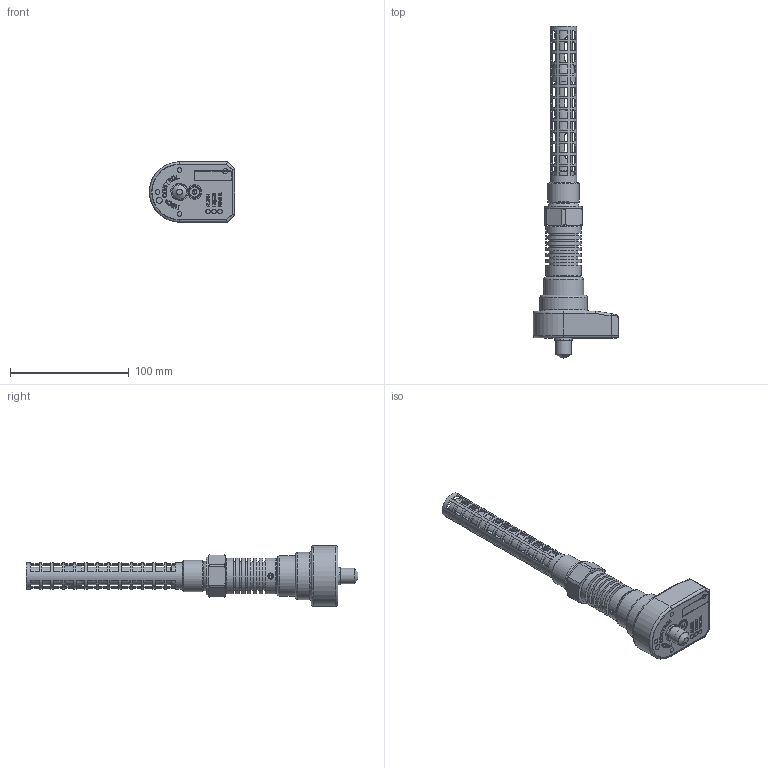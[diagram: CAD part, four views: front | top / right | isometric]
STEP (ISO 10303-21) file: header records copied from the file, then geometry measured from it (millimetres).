
FILE_DESCRIPTION((''),'2;1');
FILE_NAME('R:\Mekanisk design\HBCP-X\5. STEP-filer\HBCP-X-KOM-SAM-150-R3.stp','2013-04-24T15:58:54',('svj'),(''),'Autodesk Inventor 2013','Autodesk Inventor 2013','');
FILE_SCHEMA(('AUTOMOTIVE_DESIGN { 1 0 10303 214 1 1 1 1 }'));
Length unit declared in the file: millimetre
Products named in the file (1): HBCP-X-KOM-SAM-150-R4
Bounding box: 72 x 280.1 x 51 mm (x, y, z)
Volume: 116041.1 mm3; surface area: 82523.9 mm2
Topology: 1 solids, 27 shells, 1805 faces, 4822 edges, 3134 vertices
Faces by surface type: plane 1146, cylinder 295, bspline 214, cone 74, torus 59, sphere 17
Full cylindrical faces by diameter (mm): 0.5 x4, 1 x15, 1.003 x1, 1.3 x1, 1.8 x1, 2 x2, 2.459 x2, 2.729 x1, 2.83 x1, 3 x3, 3.2 x1, 3.5 x2, 3.6 x3, 3.8 x1, 4 x18, 4.134 x3, 4.2 x1, 4.7 x1, 5 x5, 5.3 x1, 6 x1, 6.1 x1, 6.2 x1, 6.3 x1, 7 x1, 8.3 x1, 8.5 x2, 9.4 x1, 9.7 x1, 10 x3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
Entity records: 68468 total; most frequent: CARTESIAN_POINT 23887, ORIENTED_EDGE 8932, DIRECTION 8080, EDGE_CURVE 4466, VERTEX_POINT 3006, AXIS2_PLACEMENT_3D 2719, VECTOR 2642, LINE 2642
